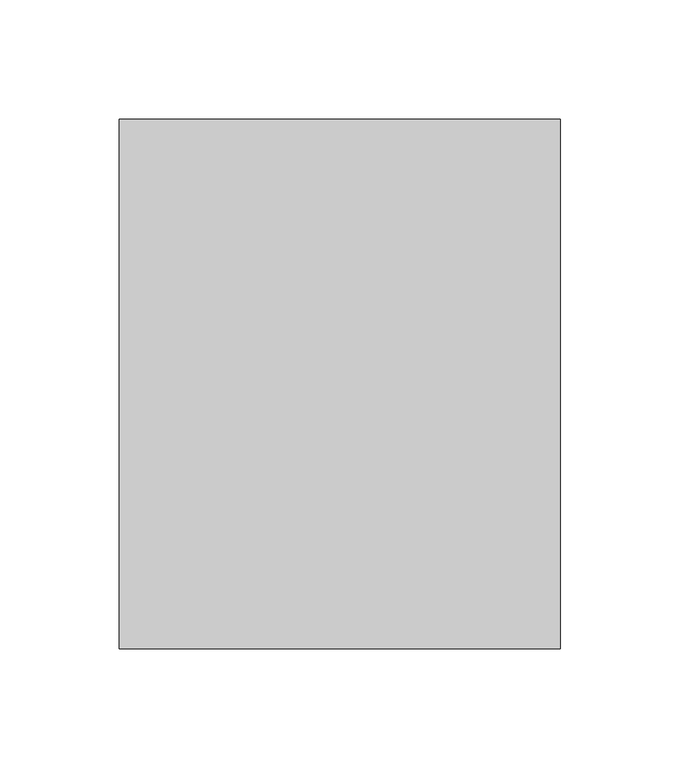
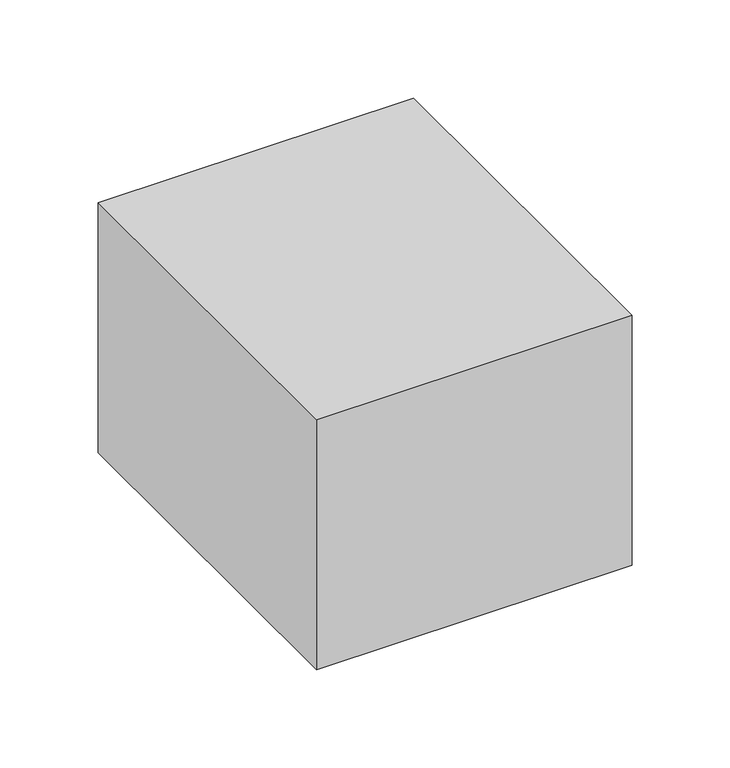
"""IFC4 building model written with IfcOpenShell, lengths in millimetres: light fixture geometry,  207 :  211907."""

from ifc_helpers import new_model, si_unit, frame, origin, place, context, project, spatial, polyline, outline, extrude, source, transform, mapped, element, save


def light_fixture_98e1bdc1(model_context):
    return source(origin(), model_context, "Body", "SweptSolid", [
        extrude(outline(polyline([(31740.2746511, -716.5178255), (31925.2746511, -716.5178255), (31925.2746511, -938.5178255), (31740.2746511, -938.5178255), (31740.2746511, -716.5178255)])), frame((0.0, 0.0, 1375.0), z_axis=(0.0, 0.0, 1.0), x_axis=(1.0, 0.0, 0.0)), (0.0, 0.0, 1.0), 155.0),
    ])


if __name__ == "__main__":
    model = new_model("IFC4")
    model_context = context("Model", 3, world=origin())
    ifc_project = project(units=[si_unit("LENGTHUNIT", "METRE", prefix="MILLI")], contexts=[model_context])
    site = spatial("IfcSite", under=ifc_project)
    building = spatial("IfcBuilding", under=site)
    placement = place(None, origin())
    light_fixture_shape = light_fixture_98e1bdc1(model_context)
    element("IfcLightFixture", 1, ObjectType=" 207 :  211907", at=placement, inside=building, context=model_context, shape_type="MappedRepresentation", body=[
        mapped(light_fixture_shape, transform((0.0, 0.0, 0.0), x_axis=(1.0, 0.0, 0.0), y_axis=(0.0, 1.0, 0.0), z_axis=(0.0, 0.0, 1.0))),
    ])
    save(model, "model.ifc")
